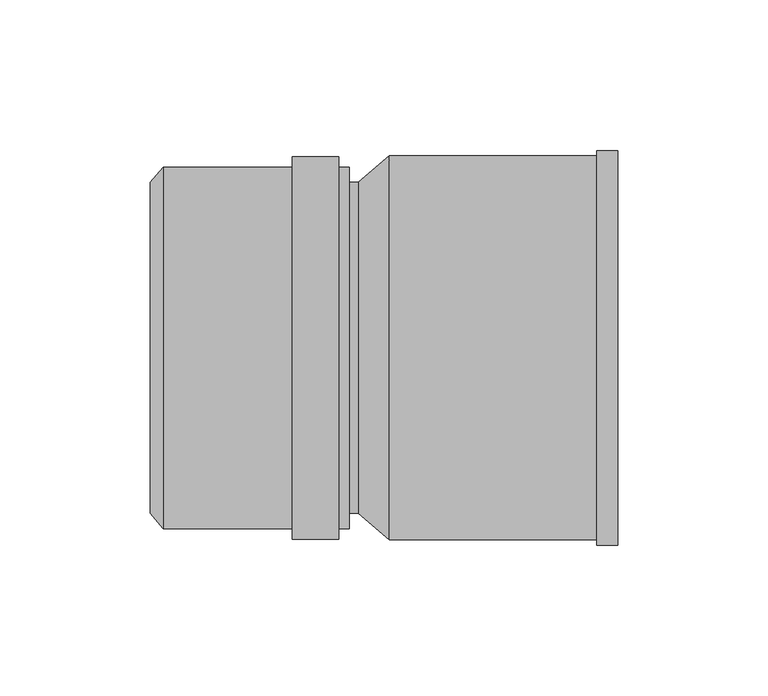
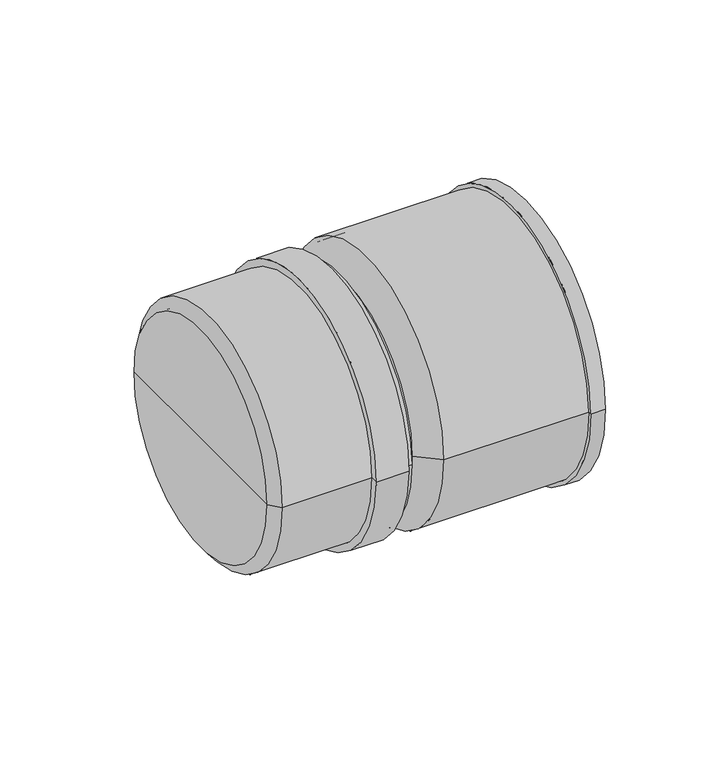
"""IFC4 building model written with IfcOpenShell, lengths in millimetres: pipe fitting geometry, pf_KGUG : pf_KGUG."""

from ifc_helpers import new_model, si_unit, point, frame, origin, origin_2d, place, context, project, spatial, polyline, circle_curve, trimmed, segment, composite_curve, outline, extrude, source, transform, mapped, element, save
from ifc_brep_helpers import plane_surface, cylinder_surface, revolved_surface, advanced_brep


def pipe_fitting_0326b847(model_context):
    return source(origin(), model_context, "Body", "SolidModel", [
        advanced_brep(
        [(-69.1, -55.0, 0.0), (-69.1, 55.0, 0.0), (-64.9, 60.1, 0.0), (-64.9, -60.1, 0.0), (-69.1, 0.0, 0.0), (-3.1, -60.1, 0.0), (-3.1, 60.1, 0.0), (-3.1, 55.0, 0.0), (-3.1, -55.0, 0.0), (-6.5, -60.1, 0.0), (-6.5, 60.1, 0.0), (-6.5, -63.5, 0.0), (-6.5, 63.5, 0.0), (-22.0, -63.5, 0.0), (-22.0, 63.5, 0.0), (-22.0, -60.1, 0.0), (-22.0, 60.1, 0.0), (-64.9, -55.0, 0.0), (-64.9, 55.0, 0.0), (-64.9, 0.0, 0.0)],
        [
            (0, 1, circle_curve(frame((-69.1, 0.0, 0.0), z_axis=(1.0, 0.0, 0.0), x_axis=(0.0, 1.0, 0.0)), 55.0)),
            (1, 2),
            (2, 3, circle_curve(frame((-64.9, 0.0, 0.0), z_axis=(-1.0, 0.0, 0.0), x_axis=(0.0, 1.0, 0.0)), 60.1)),
            (3, 0),
            (1, 0, circle_curve(frame((-69.1, 0.0, 0.0), z_axis=(1.0, 0.0, 0.0), x_axis=(0.0, 1.0, 0.0)), 55.0)),
            (3, 2, circle_curve(frame((-64.9, 0.0, 0.0), z_axis=(-1.0, 0.0, 0.0), x_axis=(0.0, 1.0, 0.0)), 60.1)),
            (4, 1),
            (0, 4),
            (5, 6, circle_curve(frame((-3.1, 0.0, 0.0), z_axis=(1.0, 0.0, 0.0), x_axis=(0.0, 1.0, 0.0)), 60.1)),
            (6, 7),
            (7, 8, circle_curve(frame((-3.1, 0.0, 0.0), z_axis=(-1.0, 0.0, 0.0), x_axis=(0.0, 1.0, 0.0)), 55.0)),
            (8, 5),
            (6, 5, circle_curve(frame((-3.1, 0.0, 0.0), z_axis=(1.0, 0.0, 0.0), x_axis=(0.0, 1.0, 0.0)), 60.1)),
            (8, 7, circle_curve(frame((-3.1, 0.0, 0.0), z_axis=(-1.0, 0.0, 0.0), x_axis=(0.0, 1.0, 0.0)), 55.0)),
            (9, 10, circle_curve(frame((-6.5, 0.0, 0.0), z_axis=(1.0, 0.0, 0.0), x_axis=(0.0, 1.0, 0.0)), 60.1)),
            (10, 6),
            (5, 9),
            (10, 9, circle_curve(frame((-6.5, 0.0, 0.0), z_axis=(1.0, 0.0, 0.0), x_axis=(0.0, 1.0, 0.0)), 60.1)),
            (11, 12, circle_curve(frame((-6.5, 0.0, 0.0), z_axis=(1.0, 0.0, 0.0), x_axis=(0.0, 1.0, 0.0)), 63.5)),
            (12, 10),
            (9, 11),
            (12, 11, circle_curve(frame((-6.5, 0.0, 0.0), z_axis=(1.0, 0.0, 0.0), x_axis=(0.0, 1.0, 0.0)), 63.5)),
            (13, 14, circle_curve(frame((-22.0, 0.0, 0.0), z_axis=(1.0, 0.0, 0.0), x_axis=(0.0, 1.0, 0.0)), 63.5)),
            (14, 12),
            (11, 13),
            (14, 13, circle_curve(frame((-22.0, 0.0, 0.0), z_axis=(1.0, 0.0, 0.0), x_axis=(0.0, 1.0, 0.0)), 63.5)),
            (15, 16, circle_curve(frame((-22.0, 0.0, 0.0), z_axis=(1.0, 0.0, 0.0), x_axis=(0.0, 1.0, 0.0)), 60.1)),
            (16, 14),
            (13, 15),
            (16, 15, circle_curve(frame((-22.0, 0.0, 0.0), z_axis=(1.0, 0.0, 0.0), x_axis=(0.0, 1.0, 0.0)), 60.1)),
            (2, 16),
            (15, 3),
            (17, 18, circle_curve(frame((-64.9, 0.0, 0.0), z_axis=(1.0, 0.0, 0.0), x_axis=(0.0, 1.0, 0.0)), 55.0)),
            (18, 19),
            (19, 17),
            (18, 17, circle_curve(frame((-64.9, 0.0, 0.0), z_axis=(1.0, 0.0, 0.0), x_axis=(0.0, 1.0, 0.0)), 55.0)),
            (7, 18),
            (17, 8),
        ],
        [
            revolved_surface(polyline([(-64.9, 60.1, 0.0), (-69.1, 55.0, 0.0)]), (-69.1, 0.0, 0.0), (-1.0, 0.0, 0.0)),
            plane_surface(frame((-69.1, 0.0, 0.0), z_axis=(-1.0, 0.0, 0.0), x_axis=(0.0, 1.0, 0.0))),
            plane_surface(frame((-3.1, 0.0, 0.0), z_axis=(1.0, 0.0, 0.0), x_axis=(0.0, 1.0, 0.0))),
            cylinder_surface(frame((-69.1, 0.0, 0.0), z_axis=(-1.0, 0.0, 0.0), x_axis=(0.0, 1.0, 0.0)), 60.1),
            plane_surface(frame((-6.5, 0.0, 0.0), z_axis=(1.0, 0.0, 0.0), x_axis=(0.0, 1.0, 0.0))),
            cylinder_surface(frame((-69.1, 0.0, 0.0), z_axis=(-1.0, 0.0, 0.0), x_axis=(0.0, 1.0, 0.0)), 63.5),
            plane_surface(frame((-22.0, 0.0, 0.0), z_axis=(-1.0, 0.0, 0.0), x_axis=(0.0, 1.0, 0.0))),
            plane_surface(frame((-64.9, 0.0, 0.0), z_axis=(1.0, 0.0, 0.0), x_axis=(0.0, 1.0, 0.0))),
            revolved_surface(polyline([(-64.9, 55.0, 0.0), (-3.0999999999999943, 55.0, 0.0)]), (-69.1, 0.0, 0.0), (-1.0, 0.0, 0.0)),
        ],
        [
            (0, [[1, 2, 3, 4]]),
            (0, [[5, -4, 6, -2]]),
            (1, [[7, -1, 8]]),
            (1, [[-8, -5, -7]]),
            (2, [[9, 10, 11, 12]]),
            (2, [[13, -12, 14, -10]]),
            (3, [[15, 16, -9, 17]]),
            (3, [[18, -17, -13, -16]]),
            (4, [[19, 20, -15, 21]]),
            (4, [[22, -21, -18, -20]]),
            (5, [[23, 24, -19, 25]]),
            (5, [[26, -25, -22, -24]]),
            (6, [[27, 28, -23, 29]]),
            (6, [[30, -29, -26, -28]]),
            (3, [[-3, 31, -27, 32]]),
            (3, [[-6, -32, -30, -31]]),
            (7, [[33, 34, 35]]),
            (7, [[36, -35, -34]]),
            (8, [[-11, 37, -33, 38]]),
            (8, [[-14, -38, -36, -37]]),
        ],
    ),
        extrude(outline(composite_curve([segment(trimmed(circle_curve(origin_2d(), 55.0), [point((-55.0, 0.0))], [point((55.0, 0.0))], False, "CARTESIAN"), True, "CONTINUOUS"), segment(trimmed(circle_curve(origin_2d(), 55.0), [point((55.0, 0.0))], [point((-55.0, 0.0))], False, "CARTESIAN"), True, "CONTINUOUS")], self_intersect=False)), frame((-3.1, 0.0, 0.0), z_axis=(1.0, 0.0, 0.0), x_axis=(0.0, 1.0, 0.0)), (0.0, 0.0, 1.0), 3.1),
        advanced_brep(
        [(86.1, -62.0, 0.0), (86.1, 62.0, 0.0), (10.2, 62.0, 0.0), (10.2, -62.0, 0.0), (86.1, -65.6, 0.0), (86.1, 65.6, 0.0), (10.2, -63.8, 0.0), (10.2, 63.8, 0.0), (79.1184027, 63.8, 0.0), (79.1184027, -63.8, 0.0), (0.0, -55.0, 0.0), (0.0, 55.0, 0.0), (0.0, 0.0, 0.0), (79.1184027, 65.6, 0.0), (79.1184027, -65.6, 0.0), (10.2, 0.0, 0.0)],
        [
            (0, 1, circle_curve(frame((86.1, 0.0, 0.0), z_axis=(1.0, 0.0, 0.0), x_axis=(0.0, 1.0, 0.0)), 62.0)),
            (1, 2),
            (2, 3, circle_curve(frame((10.2, 0.0, 0.0), z_axis=(-1.0, 0.0, 0.0), x_axis=(0.0, 1.0, 0.0)), 62.0)),
            (3, 0),
            (4, 5, circle_curve(frame((86.1, 0.0, 0.0), z_axis=(1.0, 0.0, 0.0), x_axis=(0.0, 1.0, 0.0)), 65.6)),
            (5, 1),
            (0, 4),
            (6, 7, circle_curve(frame((10.2, 0.0, 0.0), z_axis=(1.0, 0.0, 0.0), x_axis=(0.0, 1.0, 0.0)), 63.8)),
            (7, 8),
            (8, 9, circle_curve(frame((79.1184027, 0.0, 0.0), z_axis=(-1.0, 0.0, 0.0), x_axis=(0.0, 1.0, 0.0)), 63.8)),
            (9, 6),
            (10, 11, circle_curve(frame((0.0, 0.0, 0.0), z_axis=(1.0, 0.0, 0.0), x_axis=(0.0, 1.0, 0.0)), 55.0)),
            (11, 7),
            (6, 10),
            (12, 11),
            (10, 12),
            (8, 13),
            (13, 14, circle_curve(frame((79.1184027, 0.0, 0.0), z_axis=(-1.0, 0.0, 0.0), x_axis=(0.0, 1.0, 0.0)), 65.6)),
            (14, 9),
            (1, 0, circle_curve(frame((86.1, 0.0, 0.0), z_axis=(1.0, 0.0, 0.0), x_axis=(0.0, 1.0, 0.0)), 62.0)),
            (3, 2, circle_curve(frame((10.2, 0.0, 0.0), z_axis=(-1.0, 0.0, 0.0), x_axis=(0.0, 1.0, 0.0)), 62.0)),
            (5, 4, circle_curve(frame((86.1, 0.0, 0.0), z_axis=(1.0, 0.0, 0.0), x_axis=(0.0, 1.0, 0.0)), 65.6)),
            (13, 5),
            (4, 14),
            (13, 14, circle_curve(frame((79.1184027, 0.0, 0.0), z_axis=(1.0, 0.0, 0.0), x_axis=(0.0, 1.0, 0.0)), 65.6)),
            (8, 9, circle_curve(frame((79.1184027, 0.0, 0.0), z_axis=(1.0, 0.0, 0.0), x_axis=(0.0, 1.0, 0.0)), 63.8)),
            (7, 6, circle_curve(frame((10.2, 0.0, 0.0), z_axis=(1.0, 0.0, 0.0), x_axis=(0.0, 1.0, 0.0)), 63.8)),
            (11, 10, circle_curve(frame((0.0, 0.0, 0.0), z_axis=(1.0, 0.0, 0.0), x_axis=(0.0, 1.0, 0.0)), 55.0)),
            (2, 15),
            (15, 3),
        ],
        [
            revolved_surface(polyline([(10.200000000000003, 62.0, 0.0), (86.1, 62.0, 0.0)]), (92.1, 0.0, 0.0), (-1.0, 0.0, 0.0)),
            plane_surface(frame((86.1, 0.0, 0.0), z_axis=(1.0, 0.0, 0.0), x_axis=(0.0, 1.0, 0.0))),
            cylinder_surface(frame((92.1, 0.0, 0.0), z_axis=(-1.0, 0.0, 0.0), x_axis=(0.0, 1.0, 0.0)), 63.8),
            revolved_surface(polyline([(10.2, 63.8, 0.0), (0.0, 55.0, 0.0)]), (92.1, 0.0, 0.0), (-1.0, 0.0, 0.0)),
            plane_surface(frame((0.0, 0.0, 0.0), z_axis=(-1.0, 0.0, 0.0), x_axis=(0.0, 1.0, 0.0))),
            plane_surface(frame((79.1184027, 0.0, 0.0), z_axis=(-1.0, 0.0, 0.0), x_axis=(0.0, 1.0, 0.0))),
            cylinder_surface(frame((92.1, 0.0, 0.0), z_axis=(-1.0, 0.0, 0.0), x_axis=(0.0, 1.0, 0.0)), 65.6),
            plane_surface(frame((10.2, 0.0, 0.0), z_axis=(1.0, 0.0, 0.0), x_axis=(0.0, 1.0, 0.0))),
        ],
        [
            (0, [[1, 2, 3, 4]]),
            (1, [[5, 6, -1, 7]]),
            (2, [[8, 9, 10, 11]]),
            (3, [[12, 13, -8, 14]]),
            (4, [[15, -12, 16]]),
            (5, [[-10, 17, 18, 19]]),
            (0, [[20, -4, 21, -2]]),
            (1, [[22, -7, -20, -6]]),
            (6, [[-18, 23, -5, 24]]),
            (6, [[25, -24, -22, -23]]),
            (5, [[26, -19, -25, -17]]),
            (2, [[27, -11, -26, -9]]),
            (3, [[28, -14, -27, -13]]),
            (4, [[-16, -28, -15]]),
            (7, [[-3, 29, 30]]),
            (7, [[-21, -30, -29]]),
        ],
    ),
    ])


if __name__ == "__main__":
    model = new_model("IFC4")
    model_context = context("Model", 3, world=origin())
    ifc_project = project(units=[si_unit("LENGTHUNIT", "METRE", prefix="MILLI")], contexts=[model_context])
    site = spatial("IfcSite", under=ifc_project)
    building = spatial("IfcBuilding", under=site)
    placement = place(None, origin())
    pipe_fitting_shape = pipe_fitting_0326b847(model_context)
    element("IfcPipeFitting", 1, ObjectType="pf_KGUG : pf_KGUG", at=placement, inside=building, context=model_context, shape_type="MappedRepresentation", body=[
        mapped(pipe_fitting_shape, transform((0.0, 0.0, 0.0), x_axis=(1.0, 0.0, 0.0), y_axis=(0.0, 1.0, 0.0), z_axis=(0.0, 0.0, 1.0))),
    ])
    save(model, "model.ifc")
